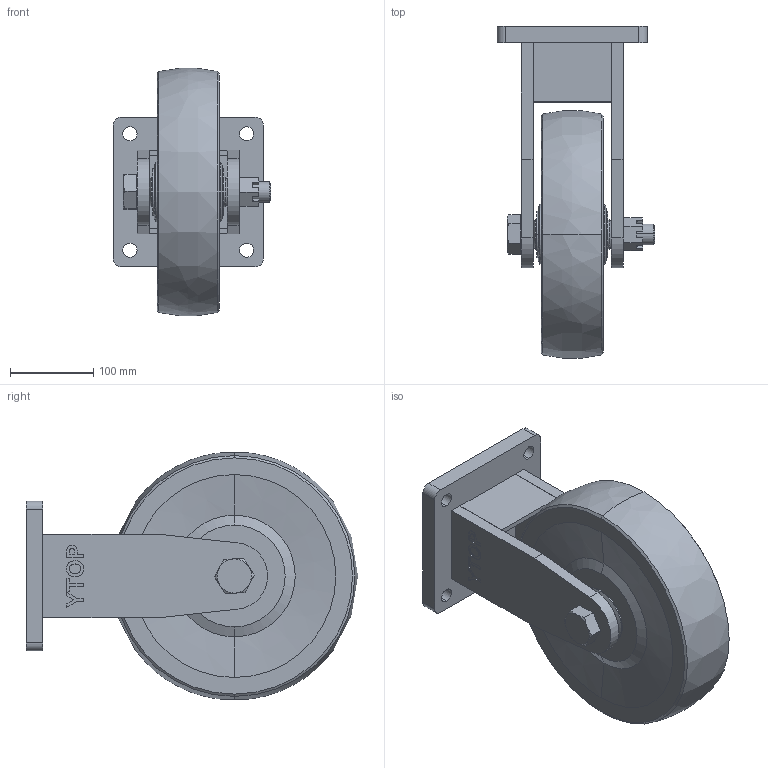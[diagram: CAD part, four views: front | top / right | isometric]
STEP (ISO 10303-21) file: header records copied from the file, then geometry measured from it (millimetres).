
FILE_DESCRIPTION (( 'STEP AP203' ), '1' );
FILE_NAME ('26-300G-75-MC.STEP', '2022-08-20T04:04:14', ( '' ), ( '' ), 'SwSTEP 2.0', 'SolidWorks 2016', '' );
FILE_SCHEMA (( 'CONFIG_CONTROL_DESIGN' ));
Length unit declared in the file: millimetre
Products named in the file (1): 26-300G-75-MC
Bounding box: 189 x 398.3 x 296.62 mm (x, y, z)
Volume: 6431987 mm3; surface area: 465561.6 mm2
Topology: 8 solids, 8 shells, 282 faces, 702 edges, 459 vertices
Faces by surface type: plane 147, cylinder 52, cone 45, bspline 38
Entity records: 10568 total; most frequent: CARTESIAN_POINT 3936, ORIENTED_EDGE 1404, DIRECTION 1239, EDGE_CURVE 702, VERTEX_POINT 459, VECTOR 419, LINE 419, AXIS2_PLACEMENT_3D 410
